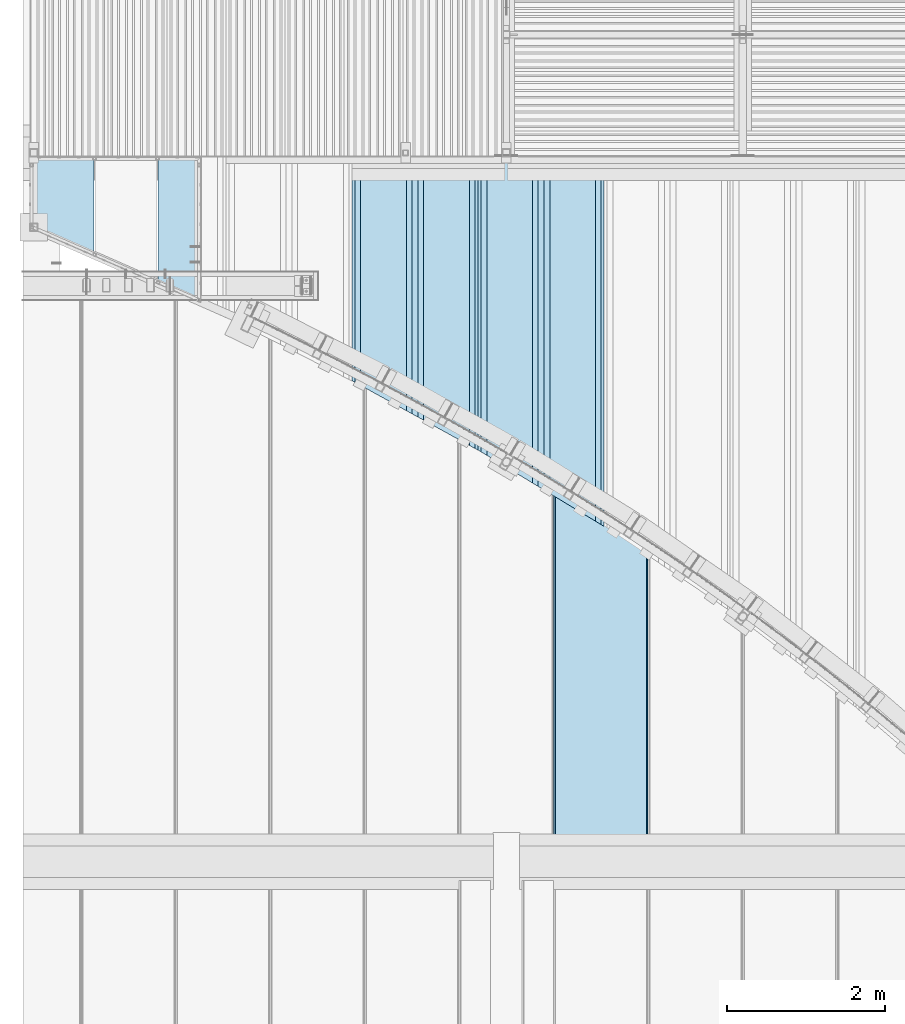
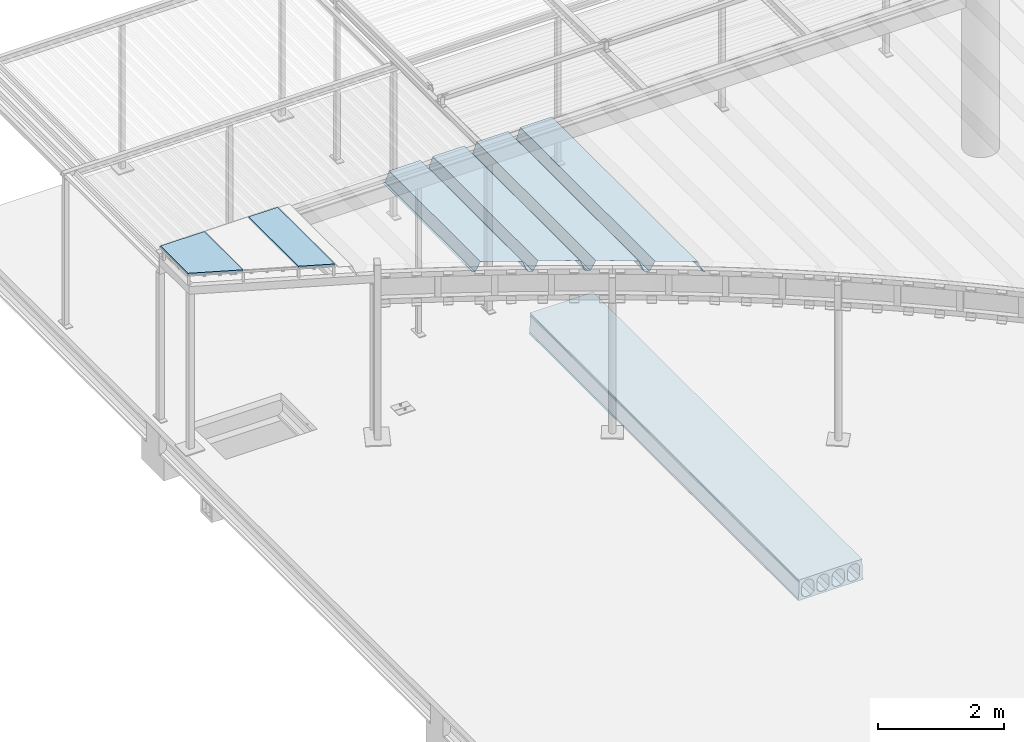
# One storey, part 58 of 98: 5 slabs.
"""IFC2X3 building model written with IfcOpenShell, lengths in millimetres."""

from ifc_helpers import new_model, entity, si_unit, converted_unit, derived_unit, direction, frame, origin_with_axes, place, context, subcontext, project, spatial, faceted_brep, material, type_object, element, save


model = new_model("IFC2X3")

# Units and contexts
model_context = context("Model", 3, precision=0.01, world=frame((0.0, 4.29681676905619e-09, 0.0)), true_north=direction((4.01073788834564e-13, 1.0)))
plan_context = context("Plan", 3, precision=0.01, world=frame((0.0, 4.29681676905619e-09, 0.0)), true_north=direction((4.01073788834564e-13, 1.0)))
body_context = subcontext(model_context, "Body", "Model", "MODEL_VIEW")
ifc_project = project(units=[converted_unit("PLANEANGLEUNIT", "DEGREE", entity("IfcPositiveLengthMeasure", 0.0174532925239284), si_unit("PLANEANGLEUNIT", "RADIAN"), dimensions=[0, 0, 0, 0, 0, 0, 0]), si_unit("AREAUNIT", "SQUARE_METRE"), si_unit("LENGTHUNIT", "METRE", prefix="MILLI"), si_unit("MASSUNIT", "GRAM", prefix="KILO"), si_unit("POWERUNIT", "WATT"), si_unit("PRESSUREUNIT", "PASCAL"), si_unit("FORCEUNIT", "NEWTON", prefix="KILO"), si_unit("ELECTRICCURRENTUNIT", "AMPERE"), si_unit("THERMODYNAMICTEMPERATUREUNIT", "DEGREE_CELSIUS"), si_unit("TIMEUNIT", "SECOND"), si_unit("VOLUMEUNIT", "CUBIC_METRE"), derived_unit("LINEARVELOCITYUNIT", [(si_unit("LENGTHUNIT", "METRE"), 1), (si_unit("TIMEUNIT", "SECOND"), -1)]), derived_unit("VOLUMETRICFLOWRATEUNIT", [(si_unit("VOLUMEUNIT", "CUBIC_METRE"), 1), (si_unit("TIMEUNIT", "SECOND"), -1)]), derived_unit("THERMALTRANSMITTANCEUNIT", [(si_unit("POWERUNIT", "WATT"), 1), (si_unit("THERMODYNAMICTEMPERATUREUNIT", "KELVIN"), -1), (si_unit("AREAUNIT", "SQUARE_METRE"), -1)])], contexts=[model_context, plan_context])

# Site, building, storey
site_placement = place(None, frame((0.0, -4.29681676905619e-09, 0.0), z_axis=(0.0, 0.0, 1.0), x_axis=(1.0, 0.0, 0.0)))
site = spatial("IfcSite", under=ifc_project, at=site_placement, Name="Gardermoen", CompositionType="ELEMENT")
building_placement = place(site_placement, frame((0.0, 4.29681676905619e-09, 0.0), z_axis=(0.0, 0.0, 1.0), x_axis=(1.0, 0.0, 0.0)))
building = spatial("IfcBuilding", under=site, at=building_placement, Name="TS", CompositionType="ELEMENT")
storey_placement = place(building_placement, origin_with_axes())
storey = spatial("IfcBuildingStorey", under=building, at=storey_placement, Name="D", CompositionType="ELEMENT", Elevation=0.0)

# Slabs
ifc_material_1 = material(Name="CONCRETE/C45/55")
slab_type_1 = type_object("IfcSlabType", Name="HD400", PredefinedType="NOTDEFINED")
slab_1_placement = place(storey_placement, frame((521199.999766, 405739.995625, 203600.0), z_axis=(0.0, 0.0, 1.0), x_axis=(0.0, 1.0, 0.0)))
element("IfcSlab", 1, at=slab_1_placement, inside=storey, type_object=slab_type_1, material=ifc_material_1, Name="HULLDEKKE", ObjectType="HD400", PredefinedType="FLOOR", context=body_context, shape_type="Brep", body=[
    faceted_brep([(0.0, 600.0, -190.0), (0.0, 600.0, -180.0), (8520.00875000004, 600.0, -180.0), (8520.00875000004, 600.0, -190.0), (0.0, 585.0, -170.0), (8520.00875000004, 585.0, -170.0), (0.0, 577.5, 145.0), (8520.00875000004, 577.5, 145.0), (0.0, 570.0, 160.0), (8520.00875000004, 570.0, 160.0), (0.0, 577.5, 175.0), (8520.00875000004, 577.5, 175.0), (0.0, 577.5, 200.0), (8520.00875000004, 577.5, 200.0), (0.0, -577.5, 200.0), (8520.00875000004, -577.5, 200.0), (0.0, -577.5, 175.0), (8520.00875000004, -577.5, 175.0), (0.0, -570.0, 160.0), (8520.00875000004, -570.0, 160.0), (0.0, -577.5, 145.0), (8520.00875000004, -577.5, 145.0), (0.0, -585.0, -170.0), (8520.00875000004, -585.0, -170.0), (0.0, -600.0, -180.0), (8520.00875000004, -600.0, -180.0), (0.0, -600.0, -190.0), (8520.00875000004, -600.0, -190.0), (0.0, -583.380004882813, -200.0), (8520.00875000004, -583.380004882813, -200.0), (0.0, 583.380004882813, -200.0), (8520.00875000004, 583.380004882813, -200.0), (0.0, -362.5, -160.0), (0.0, -477.5, -160.0), (8520.00875000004, -477.5, -160.0), (8520.00875000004, -362.5, -160.0), (0.0, -532.5, -105.0), (8520.00875000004, -532.5, -105.0), (0.0, -532.5, 47.5), (8520.00875000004, -532.5, 47.5), (0.0, -532.115755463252, 56.7901763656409), (8520.00875000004, -532.115755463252, 56.7901763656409), (0.0, -530.965646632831, 66.0168914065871), (8520.00875000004, -530.965646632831, 66.0168914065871), (0.0, -529.057529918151, 75.1171173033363), (8520.00875000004, -529.057529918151, 75.1171173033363), (0.0, -526.404439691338, 84.028690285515), (8520.00875000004, -526.404439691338, 84.028690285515), (0.0, -523.024499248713, 92.6907352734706), (8520.00875000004, -523.024499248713, 92.6907352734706), (0.0, -518.940797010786, 101.044081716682), (8520.00875000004, -518.940797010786, 101.044081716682), (0.0, -514.181228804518, 109.031667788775), (8520.00875000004, -514.181228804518, 109.031667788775), (0.0, -508.778307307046, 116.598930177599), (8520.00875000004, -508.778307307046, 116.598930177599), (0.0, -502.768939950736, 123.694176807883), (8520.00875000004, -502.768939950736, 123.694176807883), (0.0, -496.194176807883, 130.268939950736), (8520.00875000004, -496.194176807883, 130.268939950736), (0.0, -489.098930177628, 136.278307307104), (8520.00875000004, -489.098930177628, 136.278307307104), (0.0, -481.531667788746, 141.681228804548), (8520.00875000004, -481.531667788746, 141.681228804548), (0.0, -473.544081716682, 146.440797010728), (8520.00875000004, -473.544081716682, 146.440797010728), (0.0, -465.190735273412, 150.524499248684), (8520.00875000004, -465.190735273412, 150.524499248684), (0.0, -456.528690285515, 153.904439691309), (8520.00875000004, -456.528690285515, 153.904439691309), (0.0, -447.617117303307, 156.55752991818), (8520.00875000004, -447.617117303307, 156.55752991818), (0.0, -438.516891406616, 158.465646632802), (8520.00875000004, -438.516891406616, 158.465646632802), (0.0, -429.290176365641, 159.615755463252), (8520.00875000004, -429.290176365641, 159.615755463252), (0.0, -420.0, 160.0), (8520.00875000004, -420.0, 160.0), (0.0, -410.709823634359, 159.615755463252), (8520.00875000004, -410.709823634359, 159.615755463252), (0.0, -401.483108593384, 158.465646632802), (8520.00875000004, -401.483108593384, 158.465646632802), (0.0, -392.382882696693, 156.55752991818), (8520.00875000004, -392.382882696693, 156.55752991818), (0.0, -383.471309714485, 153.904439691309), (8520.00875000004, -383.471309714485, 153.904439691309), (0.0, -374.809264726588, 150.524499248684), (8520.00875000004, -374.809264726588, 150.524499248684), (0.0, -366.455918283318, 146.440797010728), (8520.00875000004, -366.455918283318, 146.440797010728), (0.0, -358.468332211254, 141.681228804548), (8520.00875000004, -358.468332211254, 141.681228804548), (0.0, -350.901069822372, 136.278307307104), (8520.00875000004, -350.901069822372, 136.278307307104), (0.0, -343.805823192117, 130.268939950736), (8520.00875000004, -343.805823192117, 130.268939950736), (0.0, -337.231060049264, 123.694176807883), (8520.00875000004, -337.231060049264, 123.694176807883), (0.0, -331.221692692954, 116.598930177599), (8520.00875000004, -331.221692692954, 116.598930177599), (0.0, -325.818771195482, 109.031667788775), (8520.00875000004, -325.818771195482, 109.031667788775), (0.0, -321.059202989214, 101.044081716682), (8520.00875000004, -321.059202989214, 101.044081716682), (0.0, -316.975500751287, 92.6907352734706), (8520.00875000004, -316.975500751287, 92.6907352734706), (0.0, -313.595560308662, 84.028690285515), (8520.00875000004, -313.595560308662, 84.028690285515), (0.0, -310.942470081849, 75.1171173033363), (8520.00875000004, -310.942470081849, 75.1171173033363), (0.0, -309.034353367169, 66.0168914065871), (8520.00875000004, -309.034353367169, 66.0168914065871), (0.0, -307.884244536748, 56.7901763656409), (8520.00875000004, -307.884244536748, 56.7901763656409), (0.0, -307.5, 47.5), (8520.00875000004, -307.5, 47.5), (0.0, -307.5, -105.0), (8520.00875000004, -307.5, -105.0), (0.0, -82.5, -160.0), (0.0, -197.5, -160.0), (8520.00875000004, -197.5, -160.0), (8520.00875000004, -82.5, -160.0), (0.0, -252.5, -105.0), (8520.00875000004, -252.5, -105.0), (0.0, -252.5, 47.5), (8520.00875000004, -252.5, 47.5), (0.0, -252.115755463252, 56.7901763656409), (8520.00875000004, -252.115755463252, 56.7901763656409), (0.0, -250.965646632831, 66.0168914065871), (8520.00875000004, -250.965646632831, 66.0168914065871), (0.0, -249.057529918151, 75.1171173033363), (8520.00875000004, -249.057529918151, 75.1171173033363), (0.0, -246.404439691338, 84.028690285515), (8520.00875000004, -246.404439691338, 84.028690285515), (0.0, -243.024499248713, 92.6907352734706), (8520.00875000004, -243.024499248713, 92.6907352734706), (0.0, -238.940797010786, 101.044081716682), (8520.00875000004, -238.940797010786, 101.044081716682), (0.0, -234.181228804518, 109.031667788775), (8520.00875000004, -234.181228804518, 109.031667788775), (0.0, -228.778307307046, 116.598930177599), (8520.00875000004, -228.778307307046, 116.598930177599), (0.0, -222.768939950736, 123.694176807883), (8520.00875000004, -222.768939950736, 123.694176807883), (0.0, -216.194176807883, 130.268939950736), (8520.00875000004, -216.194176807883, 130.268939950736), (0.0, -209.098930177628, 136.278307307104), (8520.00875000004, -209.098930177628, 136.278307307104), (0.0, -201.531667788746, 141.681228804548), (8520.00875000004, -201.531667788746, 141.681228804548), (0.0, -193.544081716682, 146.440797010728), (8520.00875000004, -193.544081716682, 146.440797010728), (0.0, -185.190735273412, 150.524499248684), (8520.00875000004, -185.190735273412, 150.524499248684), (0.0, -176.528690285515, 153.904439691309), (8520.00875000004, -176.528690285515, 153.904439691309), (0.0, -167.617117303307, 156.55752991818), (8520.00875000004, -167.617117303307, 156.55752991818), (0.0, -158.516891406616, 158.465646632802), (8520.00875000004, -158.516891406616, 158.465646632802), (0.0, -149.290176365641, 159.615755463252), (8520.00875000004, -149.290176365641, 159.615755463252), (0.0, -140.0, 160.0), (8520.00875000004, -140.0, 160.0), (0.0, -130.709823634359, 159.615755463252), (8520.00875000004, -130.709823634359, 159.615755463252), (0.0, -121.483108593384, 158.465646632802), (8520.00875000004, -121.483108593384, 158.465646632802), (0.0, -112.382882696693, 156.55752991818), (8520.00875000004, -112.382882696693, 156.55752991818), (0.0, -103.471309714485, 153.904439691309), (8520.00875000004, -103.471309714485, 153.904439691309), (0.0, -94.8092647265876, 150.524499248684), (8520.00875000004, -94.8092647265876, 150.524499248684), (0.0, -86.4559182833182, 146.440797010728), (8520.00875000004, -86.4559182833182, 146.440797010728), (0.0, -78.4683322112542, 141.681228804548), (8520.00875000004, -78.4683322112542, 141.681228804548), (0.0, -70.9010698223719, 136.278307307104), (8520.00875000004, -70.9010698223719, 136.278307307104), (0.0, -63.8058231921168, 130.268939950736), (8520.00875000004, -63.8058231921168, 130.268939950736), (0.0, -57.2310600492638, 123.694176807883), (8520.00875000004, -57.2310600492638, 123.694176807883), (0.0, -51.2216926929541, 116.598930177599), (8520.00875000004, -51.2216926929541, 116.598930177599), (0.0, -45.8187711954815, 109.031667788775), (8520.00875000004, -45.8187711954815, 109.031667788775), (0.0, -41.0592029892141, 101.044081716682), (8520.00875000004, -41.0592029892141, 101.044081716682), (0.0, -36.9755007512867, 92.6907352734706), (8520.00875000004, -36.9755007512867, 92.6907352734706), (0.0, -33.5955603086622, 84.028690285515), (8520.00875000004, -33.5955603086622, 84.028690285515), (0.0, -30.942470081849, 75.1171173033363), (8520.00875000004, -30.942470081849, 75.1171173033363), (0.0, -29.0343533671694, 66.0168914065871), (8520.00875000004, -29.0343533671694, 66.0168914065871), (0.0, -27.8842445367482, 56.7901763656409), (8520.00875000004, -27.8842445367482, 56.7901763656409), (0.0, -27.5, 47.5), (8520.00875000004, -27.5, 47.5), (0.0, -27.5, -105.0), (8520.00875000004, -27.5, -105.0), (0.0, 197.5, -160.0), (0.0, 82.5, -160.0), (8520.00875000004, 82.5, -160.0), (8520.00875000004, 197.5, -160.0), (0.0, 27.5, -105.0), (8520.00875000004, 27.5, -105.0), (0.0, 27.5, 47.5), (8520.00875000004, 27.5, 47.5), (0.0, 27.8842445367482, 56.7901763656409), (8520.00875000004, 27.8842445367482, 56.7901763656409), (0.0, 29.0343533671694, 66.0168914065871), (8520.00875000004, 29.0343533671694, 66.0168914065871), (0.0, 30.942470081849, 75.1171173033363), (8520.00875000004, 30.942470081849, 75.1171173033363), (0.0, 33.5955603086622, 84.028690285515), (8520.00875000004, 33.5955603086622, 84.028690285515), (0.0, 36.9755007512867, 92.6907352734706), (8520.00875000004, 36.9755007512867, 92.6907352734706), (0.0, 41.0592029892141, 101.044081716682), (8520.00875000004, 41.0592029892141, 101.044081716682), (0.0, 45.8187711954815, 109.031667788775), (8520.00875000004, 45.8187711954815, 109.031667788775), (0.0, 51.2216926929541, 116.598930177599), (8520.00875000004, 51.2216926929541, 116.598930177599), (0.0, 57.2310600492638, 123.694176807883), (8520.00875000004, 57.2310600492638, 123.694176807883), (0.0, 63.8058231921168, 130.268939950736), (8520.00875000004, 63.8058231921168, 130.268939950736), (0.0, 70.9010698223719, 136.278307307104), (8520.00875000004, 70.9010698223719, 136.278307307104), (0.0, 78.4683322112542, 141.681228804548), (8520.00875000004, 78.4683322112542, 141.681228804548), (0.0, 86.4559182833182, 146.440797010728), (8520.00875000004, 86.4559182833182, 146.440797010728), (0.0, 94.8092647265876, 150.524499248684), (8520.00875000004, 94.8092647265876, 150.524499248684), (0.0, 103.471309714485, 153.904439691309), (8520.00875000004, 103.471309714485, 153.904439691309), (0.0, 112.382882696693, 156.55752991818), (8520.00875000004, 112.382882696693, 156.55752991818), (0.0, 121.483108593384, 158.465646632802), (8520.00875000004, 121.483108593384, 158.465646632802), (0.0, 130.709823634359, 159.615755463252), (8520.00875000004, 130.709823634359, 159.615755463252), (0.0, 140.0, 160.0), (8520.00875000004, 140.0, 160.0), (0.0, 149.290176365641, 159.615755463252), (8520.00875000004, 149.290176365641, 159.615755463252), (0.0, 158.516891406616, 158.465646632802), (8520.00875000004, 158.516891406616, 158.465646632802), (0.0, 167.617117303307, 156.55752991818), (8520.00875000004, 167.617117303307, 156.55752991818), (0.0, 176.528690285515, 153.904439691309), (8520.00875000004, 176.528690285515, 153.904439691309), (0.0, 185.190735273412, 150.524499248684), (8520.00875000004, 185.190735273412, 150.524499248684), (0.0, 193.544081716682, 146.440797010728), (8520.00875000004, 193.544081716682, 146.440797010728), (0.0, 201.531667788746, 141.681228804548), (8520.00875000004, 201.531667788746, 141.681228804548), (0.0, 209.098930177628, 136.278307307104), (8520.00875000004, 209.098930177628, 136.278307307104), (0.0, 216.194176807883, 130.268939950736), (8520.00875000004, 216.194176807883, 130.268939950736), (0.0, 222.768939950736, 123.694176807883), (8520.00875000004, 222.768939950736, 123.694176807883), (0.0, 228.778307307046, 116.598930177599), (8520.00875000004, 228.778307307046, 116.598930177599), (0.0, 234.181228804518, 109.031667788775), (8520.00875000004, 234.181228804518, 109.031667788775), (0.0, 238.940797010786, 101.044081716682), (8520.00875000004, 238.940797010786, 101.044081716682), (0.0, 243.024499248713, 92.6907352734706), (8520.00875000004, 243.024499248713, 92.6907352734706), (0.0, 246.404439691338, 84.028690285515), (8520.00875000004, 246.404439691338, 84.028690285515), (0.0, 249.057529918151, 75.1171173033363), (8520.00875000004, 249.057529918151, 75.1171173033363), (0.0, 250.965646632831, 66.0168914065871), (8520.00875000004, 250.965646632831, 66.0168914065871), (0.0, 252.115755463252, 56.7901763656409), (8520.00875000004, 252.115755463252, 56.7901763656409), (0.0, 252.5, 47.5), (8520.00875000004, 252.5, 47.5), (0.0, 252.5, -105.0), (8520.00875000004, 252.5, -105.0), (0.0, 477.5, -160.0), (0.0, 362.5, -160.0), (8520.00875000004, 362.5, -160.0), (8520.00875000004, 477.5, -160.0), (0.0, 307.5, -105.0), (8520.00875000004, 307.5, -105.0), (0.0, 307.5, 47.5), (8520.00875000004, 307.5, 47.5), (0.0, 307.884244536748, 56.7901763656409), (8520.00875000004, 307.884244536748, 56.7901763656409), (0.0, 309.034353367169, 66.0168914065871), (8520.00875000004, 309.034353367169, 66.0168914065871), (0.0, 310.942470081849, 75.1171173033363), (8520.00875000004, 310.942470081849, 75.1171173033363), (0.0, 313.595560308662, 84.028690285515), (8520.00875000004, 313.595560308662, 84.028690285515), (0.0, 316.975500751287, 92.6907352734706), (8520.00875000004, 316.975500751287, 92.6907352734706), (0.0, 321.059202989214, 101.044081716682), (8520.00875000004, 321.059202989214, 101.044081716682), (0.0, 325.818771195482, 109.031667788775), (8520.00875000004, 325.818771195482, 109.031667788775), (0.0, 331.221692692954, 116.598930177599), (8520.00875000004, 331.221692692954, 116.598930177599), (0.0, 337.231060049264, 123.694176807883), (8520.00875000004, 337.231060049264, 123.694176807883), (0.0, 343.805823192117, 130.268939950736), (8520.00875000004, 343.805823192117, 130.268939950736), (0.0, 350.901069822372, 136.278307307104), (8520.00875000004, 350.901069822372, 136.278307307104), (0.0, 358.468332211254, 141.681228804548), (8520.00875000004, 358.468332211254, 141.681228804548), (0.0, 366.455918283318, 146.440797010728), (8520.00875000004, 366.455918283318, 146.440797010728), (0.0, 374.809264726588, 150.524499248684), (8520.00875000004, 374.809264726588, 150.524499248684), (0.0, 383.471309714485, 153.904439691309), (8520.00875000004, 383.471309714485, 153.904439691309), (0.0, 392.382882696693, 156.55752991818), (8520.00875000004, 392.382882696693, 156.55752991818), (0.0, 401.483108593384, 158.465646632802), (8520.00875000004, 401.483108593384, 158.465646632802), (0.0, 410.709823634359, 159.615755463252), (8520.00875000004, 410.709823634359, 159.615755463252), (0.0, 420.0, 160.0), (8520.00875000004, 420.0, 160.0), (0.0, 429.290176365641, 159.615755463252), (8520.00875000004, 429.290176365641, 159.615755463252), (0.0, 438.516891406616, 158.465646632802), (8520.00875000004, 438.516891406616, 158.465646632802), (0.0, 447.617117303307, 156.55752991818), (8520.00875000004, 447.617117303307, 156.55752991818), (0.0, 456.528690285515, 153.904439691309), (8520.00875000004, 456.528690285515, 153.904439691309), (0.0, 465.190735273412, 150.524499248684), (8520.00875000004, 465.190735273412, 150.524499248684), (0.0, 473.544081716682, 146.440797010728), (8520.00875000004, 473.544081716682, 146.440797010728), (0.0, 481.531667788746, 141.681228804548), (8520.00875000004, 481.531667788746, 141.681228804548), (0.0, 489.098930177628, 136.278307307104), (8520.00875000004, 489.098930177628, 136.278307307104), (0.0, 496.194176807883, 130.268939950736), (8520.00875000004, 496.194176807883, 130.268939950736), (0.0, 502.768939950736, 123.694176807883), (8520.00875000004, 502.768939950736, 123.694176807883), (0.0, 508.778307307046, 116.598930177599), (8520.00875000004, 508.778307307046, 116.598930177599), (0.0, 514.181228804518, 109.031667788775), (8520.00875000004, 514.181228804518, 109.031667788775), (0.0, 518.940797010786, 101.044081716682), (8520.00875000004, 518.940797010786, 101.044081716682), (0.0, 523.024499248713, 92.6907352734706), (8520.00875000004, 523.024499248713, 92.6907352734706), (0.0, 526.404439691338, 84.028690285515), (8520.00875000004, 526.404439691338, 84.028690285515), (0.0, 529.057529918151, 75.1171173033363), (8520.00875000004, 529.057529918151, 75.1171173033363), (0.0, 530.965646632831, 66.0168914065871), (8520.00875000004, 530.965646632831, 66.0168914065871), (0.0, 532.115755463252, 56.7901763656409), (8520.00875000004, 532.115755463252, 56.7901763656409), (0.0, 532.5, 47.5), (8520.00875000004, 532.5, 47.5), (0.0, 532.5, -105.0), (8520.00875000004, 532.5, -105.0)], [[[0, 1, 2, 3]], [[1, 4, 5, 2]], [[4, 6, 7, 5]], [[6, 8, 9, 7]], [[8, 10, 11, 9]], [[10, 12, 13, 11]], [[12, 14, 15, 13]], [[14, 16, 17, 15]], [[16, 18, 19, 17]], [[18, 20, 21, 19]], [[20, 22, 23, 21]], [[22, 24, 25, 23]], [[24, 26, 27, 25]], [[26, 28, 29, 27]], [[28, 30, 31, 29]], [[30, 0, 3, 31]], [[32, 33, 34, 35]], [[33, 36, 37, 34]], [[36, 38, 39, 37]], [[38, 40, 41, 39]], [[40, 42, 43, 41]], [[42, 44, 45, 43]], [[44, 46, 47, 45]], [[46, 48, 49, 47]], [[48, 50, 51, 49]], [[50, 52, 53, 51]], [[52, 54, 55, 53]], [[54, 56, 57, 55]], [[56, 58, 59, 57]], [[58, 60, 61, 59]], [[60, 62, 63, 61]], [[62, 64, 65, 63]], [[64, 66, 67, 65]], [[66, 68, 69, 67]], [[68, 70, 71, 69]], [[70, 72, 73, 71]], [[72, 74, 75, 73]], [[74, 76, 77, 75]], [[76, 78, 79, 77]], [[78, 80, 81, 79]], [[80, 82, 83, 81]], [[82, 84, 85, 83]], [[84, 86, 87, 85]], [[86, 88, 89, 87]], [[88, 90, 91, 89]], [[90, 92, 93, 91]], [[92, 94, 95, 93]], [[94, 96, 97, 95]], [[96, 98, 99, 97]], [[98, 100, 101, 99]], [[100, 102, 103, 101]], [[102, 104, 105, 103]], [[104, 106, 107, 105]], [[106, 108, 109, 107]], [[108, 110, 111, 109]], [[110, 112, 113, 111]], [[112, 114, 115, 113]], [[114, 116, 117, 115]], [[116, 32, 35, 117]], [[118, 119, 120, 121]], [[119, 122, 123, 120]], [[122, 124, 125, 123]], [[124, 126, 127, 125]], [[126, 128, 129, 127]], [[128, 130, 131, 129]], [[130, 132, 133, 131]], [[132, 134, 135, 133]], [[134, 136, 137, 135]], [[136, 138, 139, 137]], [[138, 140, 141, 139]], [[140, 142, 143, 141]], [[142, 144, 145, 143]], [[144, 146, 147, 145]], [[146, 148, 149, 147]], [[148, 150, 151, 149]], [[150, 152, 153, 151]], [[152, 154, 155, 153]], [[154, 156, 157, 155]], [[156, 158, 159, 157]], [[158, 160, 161, 159]], [[160, 162, 163, 161]], [[162, 164, 165, 163]], [[164, 166, 167, 165]], [[166, 168, 169, 167]], [[168, 170, 171, 169]], [[170, 172, 173, 171]], [[172, 174, 175, 173]], [[174, 176, 177, 175]], [[176, 178, 179, 177]], [[178, 180, 181, 179]], [[180, 182, 183, 181]], [[182, 184, 185, 183]], [[184, 186, 187, 185]], [[186, 188, 189, 187]], [[188, 190, 191, 189]], [[190, 192, 193, 191]], [[192, 194, 195, 193]], [[194, 196, 197, 195]], [[196, 198, 199, 197]], [[198, 200, 201, 199]], [[200, 202, 203, 201]], [[202, 118, 121, 203]], [[204, 205, 206, 207]], [[205, 208, 209, 206]], [[208, 210, 211, 209]], [[210, 212, 213, 211]], [[212, 214, 215, 213]], [[214, 216, 217, 215]], [[216, 218, 219, 217]], [[218, 220, 221, 219]], [[220, 222, 223, 221]], [[222, 224, 225, 223]], [[224, 226, 227, 225]], [[226, 228, 229, 227]], [[228, 230, 231, 229]], [[230, 232, 233, 231]], [[232, 234, 235, 233]], [[234, 236, 237, 235]], [[236, 238, 239, 237]], [[238, 240, 241, 239]], [[240, 242, 243, 241]], [[242, 244, 245, 243]], [[244, 246, 247, 245]], [[246, 248, 249, 247]], [[248, 250, 251, 249]], [[250, 252, 253, 251]], [[252, 254, 255, 253]], [[254, 256, 257, 255]], [[256, 258, 259, 257]], [[258, 260, 261, 259]], [[260, 262, 263, 261]], [[262, 264, 265, 263]], [[264, 266, 267, 265]], [[266, 268, 269, 267]], [[268, 270, 271, 269]], [[270, 272, 273, 271]], [[272, 274, 275, 273]], [[274, 276, 277, 275]], [[276, 278, 279, 277]], [[278, 280, 281, 279]], [[280, 282, 283, 281]], [[282, 284, 285, 283]], [[284, 286, 287, 285]], [[286, 288, 289, 287]], [[288, 204, 207, 289]], [[290, 291, 292, 293]], [[291, 294, 295, 292]], [[294, 296, 297, 295]], [[296, 298, 299, 297]], [[298, 300, 301, 299]], [[300, 302, 303, 301]], [[302, 304, 305, 303]], [[304, 306, 307, 305]], [[306, 308, 309, 307]], [[308, 310, 311, 309]], [[310, 312, 313, 311]], [[312, 314, 315, 313]], [[314, 316, 317, 315]], [[316, 318, 319, 317]], [[318, 320, 321, 319]], [[320, 322, 323, 321]], [[322, 324, 325, 323]], [[324, 326, 327, 325]], [[326, 328, 329, 327]], [[328, 330, 331, 329]], [[330, 332, 333, 331]], [[332, 334, 335, 333]], [[334, 336, 337, 335]], [[336, 338, 339, 337]], [[338, 340, 341, 339]], [[340, 342, 343, 341]], [[342, 344, 345, 343]], [[344, 346, 347, 345]], [[346, 348, 349, 347]], [[348, 350, 351, 349]], [[350, 352, 353, 351]], [[352, 354, 355, 353]], [[354, 356, 357, 355]], [[356, 358, 359, 357]], [[358, 360, 361, 359]], [[360, 362, 363, 361]], [[362, 364, 365, 363]], [[364, 366, 367, 365]], [[366, 368, 369, 367]], [[368, 370, 371, 369]], [[370, 372, 373, 371]], [[372, 374, 375, 373]], [[374, 290, 293, 375]], [[5, 7, 9, 11, 13, 15, 17, 19, 21, 23, 25, 27, 29, 31, 3, 2], [295, 297, 299, 301, 303, 305, 307, 309, 311, 313, 315, 317, 319, 321, 323, 325, 327, 329, 331, 333, 335, 337, 339, 341, 343, 345, 347, 349, 351, 353, 355, 357, 359, 361, 363, 365, 367, 369, 371, 373, 375, 293, 292], [209, 211, 213, 215, 217, 219, 221, 223, 225, 227, 229, 231, 233, 235, 237, 239, 241, 243, 245, 247, 249, 251, 253, 255, 257, 259, 261, 263, 265, 267, 269, 271, 273, 275, 277, 279, 281, 283, 285, 287, 289, 207, 206], [123, 125, 127, 129, 131, 133, 135, 137, 139, 141, 143, 145, 147, 149, 151, 153, 155, 157, 159, 161, 163, 165, 167, 169, 171, 173, 175, 177, 179, 181, 183, 185, 187, 189, 191, 193, 195, 197, 199, 201, 203, 121, 120], [37, 39, 41, 43, 45, 47, 49, 51, 53, 55, 57, 59, 61, 63, 65, 67, 69, 71, 73, 75, 77, 79, 81, 83, 85, 87, 89, 91, 93, 95, 97, 99, 101, 103, 105, 107, 109, 111, 113, 115, 117, 35, 34]], [[30, 28, 26, 24, 22, 20, 18, 16, 14, 12, 10, 8, 6, 4, 1, 0], [374, 372, 370, 368, 366, 364, 362, 360, 358, 356, 354, 352, 350, 348, 346, 344, 342, 340, 338, 336, 334, 332, 330, 328, 326, 324, 322, 320, 318, 316, 314, 312, 310, 308, 306, 304, 302, 300, 298, 296, 294, 291, 290], [288, 286, 284, 282, 280, 278, 276, 274, 272, 270, 268, 266, 264, 262, 260, 258, 256, 254, 252, 250, 248, 246, 244, 242, 240, 238, 236, 234, 232, 230, 228, 226, 224, 222, 220, 218, 216, 214, 212, 210, 208, 205, 204], [202, 200, 198, 196, 194, 192, 190, 188, 186, 184, 182, 180, 178, 176, 174, 172, 170, 168, 166, 164, 162, 160, 158, 156, 154, 152, 150, 148, 146, 144, 142, 140, 138, 136, 134, 132, 130, 128, 126, 124, 122, 119, 118], [116, 114, 112, 110, 108, 106, 104, 102, 100, 98, 96, 94, 92, 90, 88, 86, 84, 82, 80, 78, 76, 74, 72, 70, 68, 66, 64, 62, 60, 58, 56, 54, 52, 50, 48, 46, 44, 42, 40, 38, 36, 33, 32]]]),
])
ifc_material_2 = material(Name="STEEL/S355")
slab_type_2 = type_object("IfcSlabType", Name="PLANNJA200", PredefinedType="NOTDEFINED")
slab_2_placement = place(storey_placement, frame((518840.35, 411594.15, 207199.0), z_axis=(0.0, 0.0, 1.0), x_axis=(0.0, 1.0, 0.0)))
element("IfcSlab", 2, at=slab_2_placement, inside=storey, type_object=slab_type_2, material=ifc_material_2, Name="STÅLTAK", ObjectType="PLANNJA200", PredefinedType="FLOOR", context=body_context, shape_type="Brep", body=[
    faceted_brep([(11.9050112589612, 800.0, -98.5), (-8.37664794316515, 763.196472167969, -98.5), (2850.82999999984, 763.196472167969, -98.5), (2850.82999999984, 800.0, -98.5), (-48.7137023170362, 690.0, 99.5), (2850.82999999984, 690.0, 99.5), (-368.339646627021, 110.0, 99.5), (2850.82999999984, 110.0, 99.5), (-408.676696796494, 36.8035354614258, -98.5), (2850.82999999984, 36.8035354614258, -98.5), (-449.2400236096, -36.8035354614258, -98.5), (2850.82999999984, -36.8035354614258, -98.5), (-489.577073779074, -110.0, 99.5), (2850.82999999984, -110.0, 99.5), (-809.203018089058, -690.0, 99.5), (2850.82999999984, -690.0, 99.5), (-849.540072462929, -763.196472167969, -98.5), (2850.82999999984, -763.196472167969, -98.5), (-869.821731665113, -800.0, -98.5), (2850.82999999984, -800.0, -98.5), (-869.821731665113, -800.0, -99.5), (2850.82999999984, -800.0, -99.5), (-849.156261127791, -762.5, -99.5), (2850.82999999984, -762.5, -99.5), (-808.81920675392, -689.303527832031, 98.5), (2850.82999999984, -689.303527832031, 98.5), (-489.960880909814, -110.696464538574, 98.5), (2850.82999999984, -110.696464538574, 98.5), (-449.62383074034, -37.5, -99.5), (2850.82999999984, -37.5, -99.5), (-408.292889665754, 37.5, -99.5), (2850.82999999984, 37.5, -99.5), (-367.955839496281, 110.696464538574, 98.5), (2850.82999999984, 110.696464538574, 98.5), (-49.0975136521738, 689.303527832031, 98.5), (2850.82999999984, 689.303527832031, 98.5), (-8.76045927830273, 762.5, -99.5), (2850.82999999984, 762.5, -99.5), (11.9050112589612, 800.0, -99.5), (2850.82999999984, 800.0, -99.5)], [[[0, 1, 2, 3]], [[1, 4, 5, 2]], [[4, 6, 7, 5]], [[6, 8, 9, 7]], [[8, 10, 11, 9]], [[10, 12, 13, 11]], [[12, 14, 15, 13]], [[14, 16, 17, 15]], [[16, 18, 19, 17]], [[18, 20, 21, 19]], [[20, 22, 23, 21]], [[22, 24, 25, 23]], [[24, 26, 27, 25]], [[26, 28, 29, 27]], [[28, 30, 31, 29]], [[30, 32, 33, 31]], [[32, 34, 35, 33]], [[34, 36, 37, 35]], [[36, 38, 39, 37]], [[38, 0, 3, 39]], [[5, 7, 9, 11, 13, 15, 17, 19, 21, 23, 25, 27, 29, 31, 33, 35, 37, 39, 3, 2]], [[38, 36, 34, 32, 30, 28, 26, 24, 22, 20, 18, 16, 14, 12, 10, 8, 6, 4, 1, 0]]]),
])
slab_3_placement = place(storey_placement, frame((520440.35, 410716.48, 207199.0), z_axis=(0.0, 0.0, 1.0), x_axis=(0.0, 1.0, 0.0)))
element("IfcSlab", 3, at=slab_3_placement, inside=storey, type_object=slab_type_2, material=ifc_material_2, Name="STÅLTAK", ObjectType="PLANNJA200", PredefinedType="FLOOR", context=body_context, shape_type="Brep", body=[
    faceted_brep([(10.0748231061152, 800.0, -98.5), (-12.2275383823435, 763.196472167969, -98.5), (3728.49999999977, 763.196472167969, -98.5), (3728.49999999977, 800.0, -98.5), (-56.5834541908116, 690.0, 99.5), (3728.49999999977, 690.0, 99.5), (-408.054370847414, 110.0, 99.5), (3728.49999999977, 110.0, 99.5), (-452.410282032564, 36.8035354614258, -98.5), (3728.49999999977, 36.8035354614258, -98.5), (-497.015014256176, -36.8035354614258, -98.5), (3728.49999999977, -36.8035354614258, -98.5), (-541.370925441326, -110.0, 99.5), (3728.49999999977, -110.0, 99.5), (-892.841842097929, -690.0, 99.5), (3728.49999999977, -690.0, 99.5), (-937.197757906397, -763.196472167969, -98.5), (3728.49999999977, -763.196472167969, -98.5), (-959.500119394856, -800.0, -98.5), (3728.49999999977, -800.0, -98.5), (-959.500119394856, -800.0, -99.5), (3728.49999999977, -800.0, -99.5), (-936.775706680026, -762.5, -99.5), (3728.49999999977, -762.5, -99.5), (-892.419790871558, -689.303527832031, 98.5), (3728.49999999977, -689.303527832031, 98.5), (-541.792972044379, -110.696464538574, 98.5), (3728.49999999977, -110.696464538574, 98.5), (-497.437060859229, -37.5, -99.5), (3728.49999999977, -37.5, -99.5), (-451.988235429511, 37.5, -99.5), (3728.49999999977, 37.5, -99.5), (-407.632324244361, 110.696464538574, 98.5), (3728.49999999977, 110.696464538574, 98.5), (-57.0055054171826, 689.303527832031, 98.5), (3728.49999999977, 689.303527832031, 98.5), (-12.6495896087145, 762.5, -99.5), (3728.49999999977, 762.5, -99.5), (10.0748231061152, 800.0, -99.5), (3728.49999999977, 800.0, -99.5)], [[[0, 1, 2, 3]], [[1, 4, 5, 2]], [[4, 6, 7, 5]], [[6, 8, 9, 7]], [[8, 10, 11, 9]], [[10, 12, 13, 11]], [[12, 14, 15, 13]], [[14, 16, 17, 15]], [[16, 18, 19, 17]], [[18, 20, 21, 19]], [[20, 22, 23, 21]], [[22, 24, 25, 23]], [[24, 26, 27, 25]], [[26, 28, 29, 27]], [[28, 30, 31, 29]], [[30, 32, 33, 31]], [[32, 34, 35, 33]], [[34, 36, 37, 35]], [[36, 38, 39, 37]], [[38, 0, 3, 39]], [[5, 7, 9, 11, 13, 15, 17, 19, 21, 23, 25, 27, 29, 31, 33, 35, 37, 39, 3, 2]], [[38, 36, 34, 32, 30, 28, 26, 24, 22, 20, 18, 16, 14, 12, 10, 8, 6, 4, 1, 0]]]),
])
ifc_material_3 = material(Name="STEEL/Steel_Undefined")
slab_type_3 = type_object("IfcSlabType", Name="PL40*530", PredefinedType="NOTDEFINED")
slab_4_placement = place(storey_placement, frame((516104.998435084, 414429.981084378, 207300.0), z_axis=(9.99999902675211e-08, -0.999999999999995, 0.0), x_axis=(-0.999999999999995, -9.99999902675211e-08, 0.0)))
element("IfcSlab", 4, at=slab_4_placement, inside=storey, type_object=slab_type_3, material=ifc_material_3, Name="STÅLRIST", ObjectType="PL40*530", PredefinedType="FLOOR", context=body_context, shape_type="Brep", body=[
    faceted_brep([(0.0, -20.0, 0.0), (0.0, -20.0, 1810.73510742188), (0.0, 20.0, 1810.73510742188), (0.0, 20.0, 0.0), (530.001831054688, -20.0, 1578.28894042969), (530.001831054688, 20.0, 1578.28894042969), (530.001831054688, -20.0, -5.82076609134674e-11), (530.001831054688, 20.0, -5.82076609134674e-11)], [[[0, 1, 2, 3]], [[1, 4, 5, 2]], [[4, 6, 7, 5]], [[6, 0, 3, 7]], [[5, 7, 3, 2]], [[6, 4, 1, 0]]]),
])
slab_type_4 = type_object("IfcSlabType", Name="PL40*800", PredefinedType="NOTDEFINED")
slab_5_placement = place(storey_placement, frame((514764.996604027, 414429.981084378, 207300.0), z_axis=(9.99999902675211e-08, -0.999999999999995, 0.0), x_axis=(-0.999999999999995, -9.99999902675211e-08, 0.0)))
element("IfcSlab", 5, at=slab_5_placement, inside=storey, type_object=slab_type_4, material=ifc_material_3, Name="STÅLRIST", ObjectType="PL40*800", PredefinedType="FLOOR", context=body_context, shape_type="Brep", body=[
    faceted_brep([(0.0, -20.0, 0.0), (5.82076609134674e-11, -20.0, 1223.47314453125), (5.82076609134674e-11, 20.0, 1223.47314453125), (0.0, 20.0, 0.0), (799.998168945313, -20.0, 873.083374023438), (799.998168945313, 20.0, 873.083374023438), (799.998168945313, -20.0, -5.82076609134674e-11), (799.998168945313, 20.0, -5.82076609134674e-11)], [[[0, 1, 2, 3]], [[1, 4, 5, 2]], [[4, 6, 7, 5]], [[6, 0, 3, 7]], [[5, 7, 3, 2]], [[6, 4, 1, 0]]]),
])

save(model, "model.ifc")
